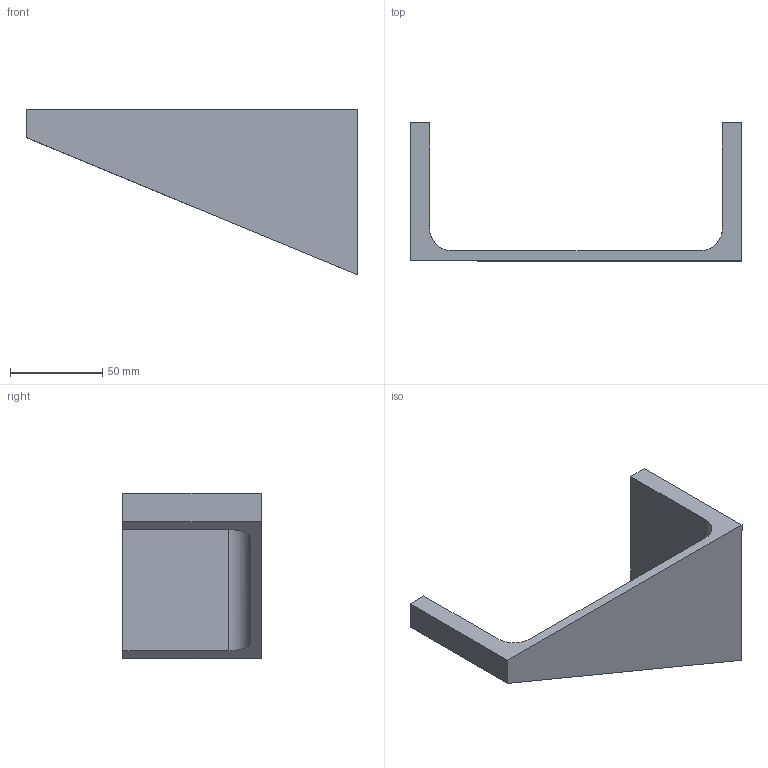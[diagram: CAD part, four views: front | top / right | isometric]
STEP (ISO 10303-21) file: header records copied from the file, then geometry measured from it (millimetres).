
FILE_DESCRIPTION (( 'STEP AP214' ), '1' );
FILE_NAME ('CCJ029-REP.054 - MONTANT ESCALIER SUPERIEUR DOUBLE 3 SYM.STEP', '2024-01-31T09:29:57', ( '' ), ( '' ), 'SwSTEP 2.0', 'SolidWorks 2021', '' );
FILE_SCHEMA (( 'AUTOMOTIVE_DESIGN' ));
Length unit declared in the file: millimetre
Products named in the file (1): CCJ029-REP.054 - MONTANT ESCALIER SUPERIEUR DOUBLE 3 SYM
Bounding box: 180 x 75 x 90 mm (x, y, z)
Volume: 132324.4 mm3; surface area: 39007 mm2
Topology: 1 solids, 1 shells, 53 faces, 138 edges, 92 vertices
Faces by surface type: plane 34, bspline 17, cylinder 2
Entity records: 2814 total; most frequent: CARTESIAN_POINT 1595, ORIENTED_EDGE 276, DIRECTION 178, EDGE_CURVE 138, VECTOR 100, LINE 100, VERTEX_POINT 92, EDGE_LOOP 58
